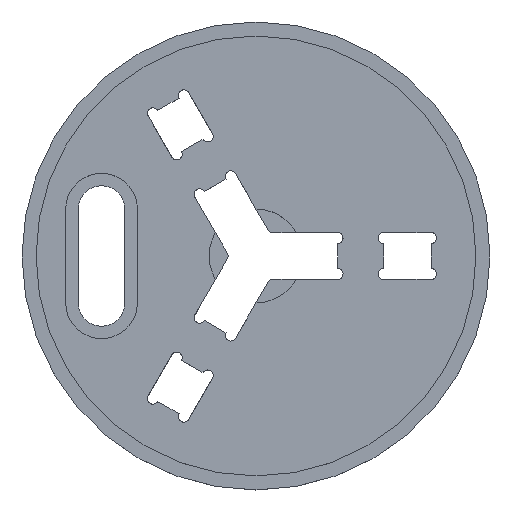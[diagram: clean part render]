
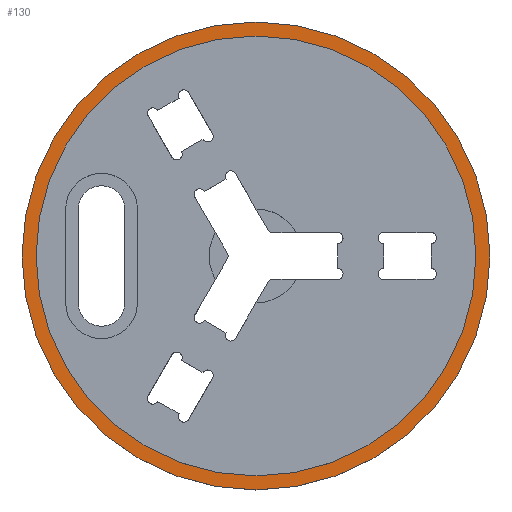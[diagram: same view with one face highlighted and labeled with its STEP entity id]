
A CAD part, top view. The second image highlights one B-rep face of the part: STEP entity #130.
In plain terms, the highlighted planar face has unit normal (0, 0, 1).
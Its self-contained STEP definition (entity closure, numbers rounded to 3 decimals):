
#130 = ADVANCED_FACE ( 'NONE', ( #2096, #1599 ), #2707, .T. ) ;
#204 = DIRECTION ( 'NONE',  ( 0., 0., 1. ) ) ;
#283 = DIRECTION ( 'NONE',  ( 1., 0., 0. ) ) ;
#310 = CARTESIAN_POINT ( 'NONE',  ( 332.669, 203.582, 12. ) ) ;
#321 = EDGE_LOOP ( 'NONE', ( #563, #1811 ) ) ;
#368 = AXIS2_PLACEMENT_3D ( 'NONE', #1012, #1238, #2934 ) ;
#454 = DIRECTION ( 'NONE',  ( 0., 0., 1. ) ) ;
#465 = CIRCLE ( 'NONE', #1001, 150. ) ;
#563 = ORIENTED_EDGE ( 'NONE', *, *, #1136, .F. ) ;
#667 = DIRECTION ( 'NONE',  ( 1., 0., 0. ) ) ;
#854 = AXIS2_PLACEMENT_3D ( 'NONE', #1873, #454, #1883 ) ;
#903 = CIRCLE ( 'NONE', #1804, 141. ) ;
#928 = CARTESIAN_POINT ( 'NONE',  ( 50.669, 203.582, 12. ) ) ;
#1001 = AXIS2_PLACEMENT_3D ( 'NONE', #1896, #2861, #667 ) ;
#1003 = VERTEX_POINT ( 'NONE', #1808 ) ;
#1012 = CARTESIAN_POINT ( 'NONE',  ( 191.669, 203.582, 12. ) ) ;
#1112 = CIRCLE ( 'NONE', #854, 150. ) ;
#1136 = EDGE_CURVE ( 'NONE', #2530, #1848, #903, .T. ) ;
#1238 = DIRECTION ( 'NONE',  ( 0., 0., 1. ) ) ;
#1599 = FACE_OUTER_BOUND ( 'NONE', #2719, .T. ) ;
#1631 = CIRCLE ( 'NONE', #368, 141. ) ;
#1804 = AXIS2_PLACEMENT_3D ( 'NONE', #3040, #204, #2350 ) ;
#1808 = CARTESIAN_POINT ( 'NONE',  ( 341.669, 203.582, 12. ) ) ;
#1811 = ORIENTED_EDGE ( 'NONE', *, *, #2619, .F. ) ;
#1817 = EDGE_CURVE ( 'NONE', #2593, #1003, #1112, .T. ) ;
#1848 = VERTEX_POINT ( 'NONE', #928 ) ;
#1858 = EDGE_CURVE ( 'NONE', #1003, #2593, #465, .T. ) ;
#1873 = CARTESIAN_POINT ( 'NONE',  ( 191.669, 203.582, 12. ) ) ;
#1883 = DIRECTION ( 'NONE',  ( 1., 0., 0. ) ) ;
#1896 = CARTESIAN_POINT ( 'NONE',  ( 191.669, 203.582, 12. ) ) ;
#2096 = FACE_BOUND ( 'NONE', #321, .T. ) ;
#2350 = DIRECTION ( 'NONE',  ( 1., 0., 0. ) ) ;
#2360 = ORIENTED_EDGE ( 'NONE', *, *, #1858, .T. ) ;
#2530 = VERTEX_POINT ( 'NONE', #310 ) ;
#2593 = VERTEX_POINT ( 'NONE', #2735 ) ;
#2619 = EDGE_CURVE ( 'NONE', #1848, #2530, #1631, .T. ) ;
#2707 = PLANE ( 'NONE',  #2992 ) ;
#2719 = EDGE_LOOP ( 'NONE', ( #2837, #2360 ) ) ;
#2728 = CARTESIAN_POINT ( 'NONE',  ( 191.669, 203.582, 12. ) ) ;
#2735 = CARTESIAN_POINT ( 'NONE',  ( 41.669, 203.582, 12. ) ) ;
#2837 = ORIENTED_EDGE ( 'NONE', *, *, #1817, .T. ) ;
#2861 = DIRECTION ( 'NONE',  ( 0., 0., 1. ) ) ;
#2934 = DIRECTION ( 'NONE',  ( 1., 0., 0. ) ) ;
#2966 = DIRECTION ( 'NONE',  ( 0., 0., 1. ) ) ;
#2992 = AXIS2_PLACEMENT_3D ( 'NONE', #2728, #2966, #283 ) ;
#3040 = CARTESIAN_POINT ( 'NONE',  ( 191.669, 203.582, 12. ) ) ;
